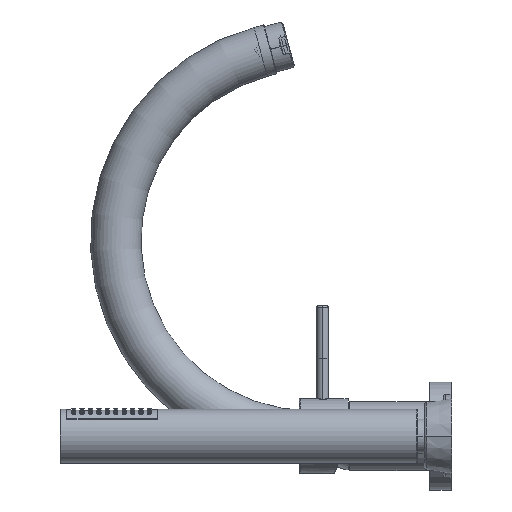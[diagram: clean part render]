
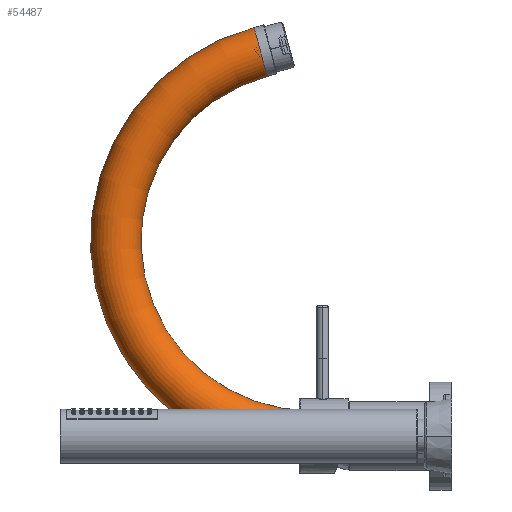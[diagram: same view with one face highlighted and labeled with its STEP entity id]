
A CAD part, left-side view. The second image highlights one B-rep face of the part: STEP entity #54487.
In plain terms, the highlighted toroidal (fillet/blend) face has major radius 116 mm and minor radius 15 mm.
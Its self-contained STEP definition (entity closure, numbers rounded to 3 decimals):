
#48514=CARTESIAN_POINT('',(0.,113.523,
228.047));
#48515=DIRECTION('',(0.,-0.966,0.259));
#48516=DIRECTION('',(0.,0.259,0.966));
#48517=AXIS2_PLACEMENT_3D('',#48514,#48515,#48516);
#48616=CARTESIAN_POINT('',(0.,83.5,116.));
#48617=DIRECTION('',(1.,0.,0.));
#48618=DIRECTION('',(0.,0.,-1.));
#48619=AXIS2_PLACEMENT_3D('',#48616,#48617,#48618);
#50550=CARTESIAN_POINT('',(0.,83.5,0.));
#50551=DIRECTION('',(0.,1.,0.));
#50552=DIRECTION('',(0.,0.,-1.));
#50553=AXIS2_PLACEMENT_3D('',#50550,#50551,#50552);
#50555=CARTESIAN_POINT('',(0.,83.5,116.));
#50556=DIRECTION('',(1.,0.,0.));
#50557=DIRECTION('',(0.,0.,-1.));
#50558=AXIS2_PLACEMENT_3D('',#50555,#50556,#50557);
#51497=CARTESIAN_POINT('',(0.,83.5,-15.));
#51498=CARTESIAN_POINT('',(0.,83.5,15.));
#51499=VERTEX_POINT('',#51497);
#51500=VERTEX_POINT('',#51498);
#51501=CARTESIAN_POINT('',(0.,117.405,
242.536));
#51502=CARTESIAN_POINT('',(0.,109.641,
213.559));
#51503=VERTEX_POINT('',#51501);
#51504=VERTEX_POINT('',#51502);
#54476=CARTESIAN_POINT('',(0.,83.5,116.));
#54477=DIRECTION('',(1.,0.,0.));
#54478=DIRECTION('',(0.,0.,1.));
#54479=AXIS2_PLACEMENT_3D('',#54476,#54477,#54478);
#54480=TOROIDAL_SURFACE('',#54479,116.,15.);
#54481=ORIENTED_EDGE('',*,*,#54470,.F.);
#54482=ORIENTED_EDGE('',*,*,#53010,.T.);
#54483=ORIENTED_EDGE('',*,*,#52980,.T.);
#54484=ORIENTED_EDGE('',*,*,#53007,.F.);
#54485=EDGE_LOOP('',(#54481,#54482,#54483,#54484));
#54486=FACE_OUTER_BOUND('',#54485,.F.);
#54487=ADVANCED_FACE('',(#54486),#54480,.T.);
#48518=CIRCLE('',#48517,15.);
#48620=CIRCLE('',#48619,101.);
#50554=CIRCLE('',#50553,15.);
#50559=CIRCLE('',#50558,131.);
#52980=EDGE_CURVE('',#51503,#51504,#48518,.T.);
#53007=EDGE_CURVE('',#51500,#51504,#48620,.T.);
#53010=EDGE_CURVE('',#51499,#51503,#50559,.T.);
#54470=EDGE_CURVE('',#51499,#51500,#50554,.T.);
